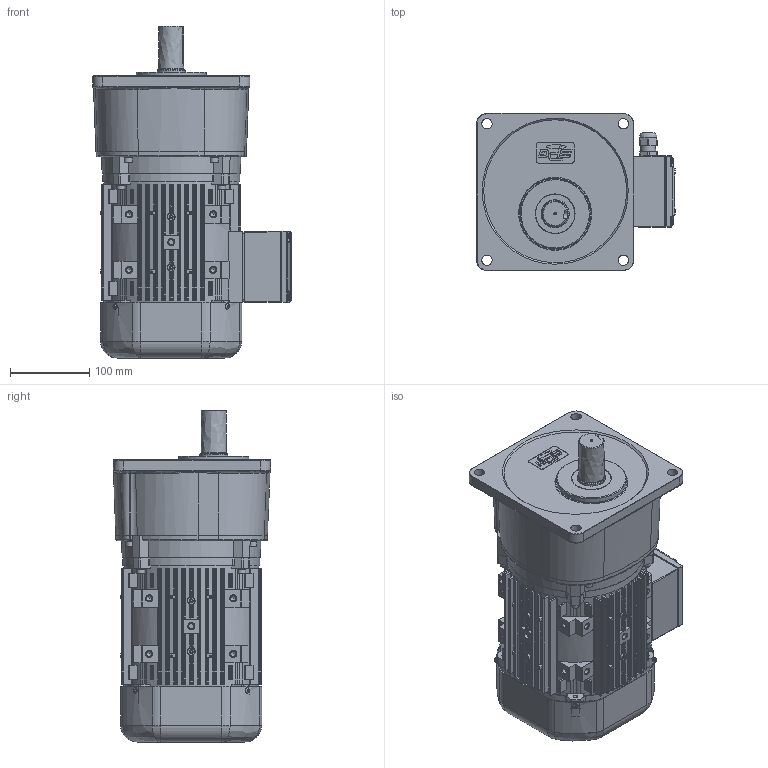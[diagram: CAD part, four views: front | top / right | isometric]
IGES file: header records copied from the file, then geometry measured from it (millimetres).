
Global section: file name: No Iges File Name specified; native system: Autodesk Inventor 2013; preprocessor: AutoDesk Inventor Iges Exporter R2013; author: jhheo; date: 20130402.142919; units: millimetre
Bounding box: 250.5 x 198 x 418.5 mm (x, y, z)
Volume: 3015114.2 mm3; surface area: 892501.7 mm2
Topology: 34 solids, 34 shells, 2455 faces, 6503 edges, 4236 vertices
Faces by surface type: bspline 2455
